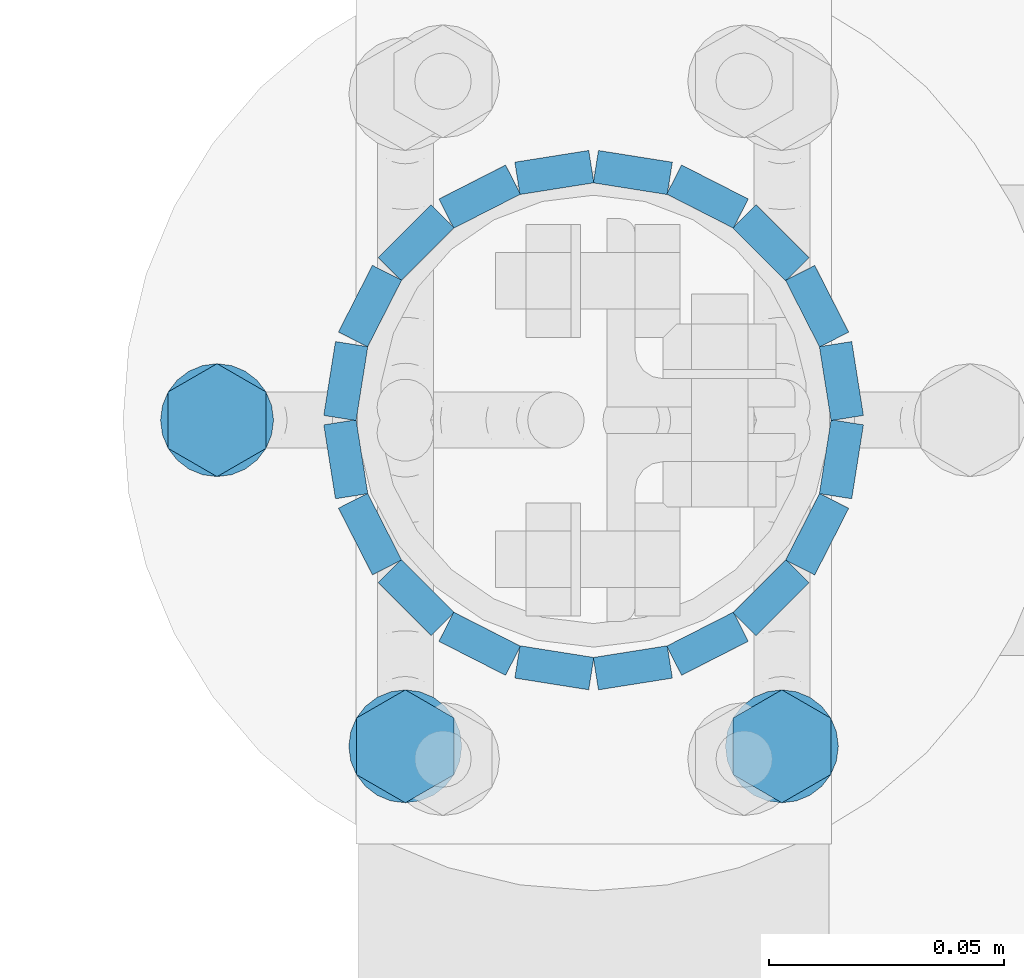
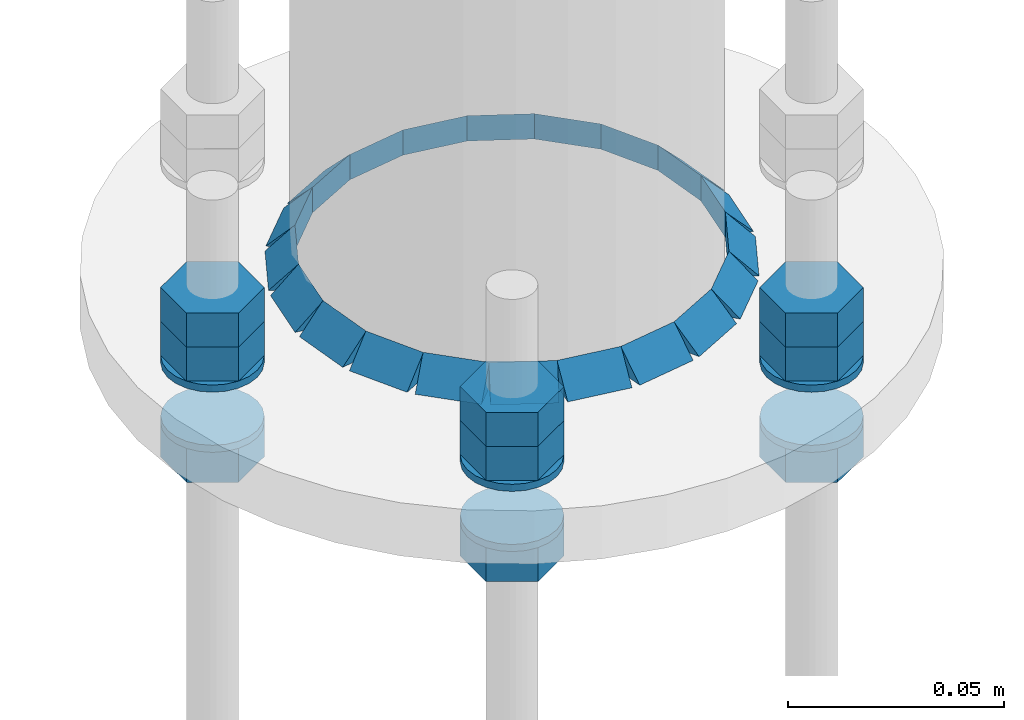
# One storey, part 48 of 84: 40 fasteners, 15 mechanical fasteners.
"""IFC4 building model written with IfcOpenShell, lengths in metres."""

from ifc_helpers import new_model, si_unit, frame, origin_with_axes, place, context, project, spatial, polyline, outline, extrude, type_object, element, save


model = new_model("IFC4")

# Units and contexts
model_context = context("Model", 3, precision=1e-05, world=origin_with_axes())
ifc_project = project(units=[si_unit("LENGTHUNIT", "METRE"), si_unit("AREAUNIT", "SQUARE_METRE"), si_unit("VOLUMEUNIT", "CUBIC_METRE"), si_unit("MASSUNIT", "GRAM", prefix="KILO"), si_unit("TIMEUNIT", "SECOND"), si_unit("PLANEANGLEUNIT", "RADIAN"), si_unit("SOLIDANGLEUNIT", "STERADIAN"), si_unit("THERMODYNAMICTEMPERATUREUNIT", "DEGREE_CELSIUS")], contexts=[model_context])

# Site, building, storey
placement_1 = place(None, origin_with_axes())
site = spatial("IfcSite", under=ifc_project, at=placement_1, Name="Italia", CompositionType="ELEMENT")
building = spatial("IfcBuilding", under=site, at=placement_1, Name="Tettoia", CompositionType="ELEMENT")
storey_placement = place(None, frame((0.0, 0.0, 4.199999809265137), z_axis=(0.0, 0.0, 1.0), x_axis=(1.0, 0.0, 0.0)))
storey = spatial("IfcBuildingStorey", under=building, at=storey_placement, Name="Storey 1", CompositionType="ELEMENT", Elevation=4.199999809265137)

# Fasteners
fastener_type_1 = type_object("IfcFastenerType", Name="Collegamento -011_0111", PredefinedType="WELD")
placement_2 = place(placement_1, origin_with_axes())
fastener_1_placement = place(placement_2, origin_with_axes())
element("IfcFastener", 1, at=fastener_1_placement, inside=storey, type_object=fastener_type_1, Name="Collegamento -011_0111", context=model_context, shape_type="SweptSolid", body=[
    extrude(outline(polyline([(0.0, 0.0), (0.00695801, 0.00717354), (0.00695801, 0.0), (0.0, 0.0)])), frame((0.116736, 14.0048, 4.01495), z_axis=(-0.98768013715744, 0.156486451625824, 0.0), x_axis=(-0.156486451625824, -0.98768013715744, 0.0)), (0.0, 0.0, 1.0), 0.0159),
])
fastener_type_2 = type_object("IfcFastenerType", Name="Collegamento -011_0111", PredefinedType="WELD")
fastener_2_placement = place(placement_2, origin_with_axes())
element("IfcFastener", 2, at=fastener_2_placement, inside=storey, type_object=fastener_type_2, Name="Collegamento -011_0111", context=model_context, shape_type="SweptSolid", body=[
    extrude(outline(polyline([(0.0, 0.0), (0.00695896, 0.00717354), (0.00695896, 0.0), (0.0, 0.0)])), frame((0.132864, 13.997, 4.01495), z_axis=(-0.8910071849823, 0.453989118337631, 0.0), x_axis=(-0.453989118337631, -0.8910071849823, 0.0)), (0.0, 0.0, 1.0), 0.0158999),
])
fastener_type_3 = type_object("IfcFastenerType", Name="Collegamento -011_0111", PredefinedType="WELD")
fastener_3_placement = place(placement_2, origin_with_axes())
element("IfcFastener", 3, at=fastener_3_placement, inside=storey, type_object=fastener_type_3, Name="Collegamento -011_0111", context=model_context, shape_type="SweptSolid", body=[
    extrude(outline(polyline([(0.0, 0.0), (0.00695801, 0.00717354), (0.00695801, 0.0), (0.0, 0.0)])), frame((0.145776, 13.9845, 4.01495), z_axis=(-0.70710813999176, 0.707105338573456, 0.0), x_axis=(-0.707105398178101, -0.707108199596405, 0.0)), (0.0, 0.0, 1.0), 0.0158998),
])
fastener_type_4 = type_object("IfcFastenerType", Name="Collegamento -011_0111", PredefinedType="WELD")
fastener_4_placement = place(placement_2, origin_with_axes())
element("IfcFastener", 4, at=fastener_4_placement, inside=storey, type_object=fastener_type_4, Name="Collegamento -011_0111", context=model_context, shape_type="SweptSolid", body=[
    extrude(outline(polyline([(0.0, 0.0), (0.00695848, 0.00717354), (0.00695848, 0.0), (0.0, 0.0)])), frame((0.154206, 13.9687, 4.01495), z_axis=(-0.453992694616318, 0.891005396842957, 0.0), x_axis=(-0.891005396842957, -0.453992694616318, 0.0)), (0.0, 0.0, 1.0), 0.0158998),
])
fastener_type_5 = type_object("IfcFastenerType", Name="Collegamento -011_0111", PredefinedType="WELD")
fastener_5_placement = place(placement_2, origin_with_axes())
element("IfcFastener", 5, at=fastener_5_placement, inside=storey, type_object=fastener_type_5, Name="Collegamento -011_0111", context=model_context, shape_type="SweptSolid", body=[
    extrude(outline(polyline([(0.0, 0.0), (0.00695801, 0.00717354), (0.00695801, 0.0), (0.0, 0.0)])), frame((0.157331, 13.951, 4.01495), z_axis=(-0.156434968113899, 0.987688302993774, 0.0), x_axis=(-0.98768824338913, -0.156434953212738, 0.0)), (0.0, 0.0, 1.0), 0.0158999),
])
fastener_type_6 = type_object("IfcFastenerType", Name="Collegamento -011_0111", PredefinedType="WELD")
fastener_6_placement = place(placement_2, origin_with_axes())
element("IfcFastener", 6, at=fastener_6_placement, inside=storey, type_object=fastener_type_6, Name="Collegamento -011_0111", context=model_context, shape_type="SweptSolid", body=[
    extrude(outline(polyline([(0.0, 0.0), (0.00695801, 0.00717354), (0.00695801, 0.0), (0.0, 0.0)])), frame((0.154844, 13.9333, 4.01495), z_axis=(0.156434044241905, 0.987688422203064, 0.0), x_axis=(-0.987688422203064, 0.156434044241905, 0.0)), (0.0, 0.0, 1.0), 0.0158999),
])
fastener_type_7 = type_object("IfcFastenerType", Name="Collegamento -011_0111", PredefinedType="WELD")
fastener_7_placement = place(placement_2, origin_with_axes())
element("IfcFastener", 7, at=fastener_7_placement, inside=storey, type_object=fastener_type_7, Name="Collegamento -011_0111", context=model_context, shape_type="SweptSolid", body=[
    extrude(outline(polyline([(0.0, 0.0), (0.00695801, 0.00717354), (0.00695801, 0.0), (0.0, 0.0)])), frame((0.146988, 13.9171, 4.01495), z_axis=(0.45399197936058, 0.89100581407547, 0.0), x_axis=(-0.891005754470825, 0.453991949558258, 0.0)), (0.0, 0.0, 1.0), 0.0158998),
])
fastener_type_8 = type_object("IfcFastenerType", Name="Collegamento -011_0111", PredefinedType="WELD")
fastener_8_placement = place(placement_2, origin_with_axes())
element("IfcFastener", 8, at=fastener_8_placement, inside=storey, type_object=fastener_type_8, Name="Collegamento -011_0111", context=model_context, shape_type="SweptSolid", body=[
    extrude(outline(polyline([(0.0, 0.0), (0.00695801, 0.00717354), (0.00695801, 0.0), (0.0, 0.0)])), frame((0.134533, 13.9042, 4.01495), z_axis=(0.707108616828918, 0.707104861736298, 0.0), x_axis=(-0.707104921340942, 0.707108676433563, 0.0)), (0.0, 0.0, 1.0), 0.0158999),
])
fastener_type_9 = type_object("IfcFastenerType", Name="Collegamento -011_0111", PredefinedType="WELD")
fastener_9_placement = place(placement_2, origin_with_axes())
element("IfcFastener", 9, at=fastener_9_placement, inside=storey, type_object=fastener_type_9, Name="Collegamento -011_0111", context=model_context, shape_type="SweptSolid", body=[
    extrude(outline(polyline([(0.0, 0.0), (0.00695896, 0.00717354), (0.00695896, 0.0), (0.0, 0.0)])), frame((0.118697, 13.8958, 4.01495), z_axis=(0.891007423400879, 0.453988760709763, 0.0), x_axis=(-0.453988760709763, 0.891007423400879, 0.0)), (0.0, 0.0, 1.0), 0.0158999),
])
fastener_type_10 = type_object("IfcFastenerType", Name="Collegamento -011_0111", PredefinedType="WELD")
fastener_10_placement = place(placement_2, origin_with_axes())
element("IfcFastener", 10, at=fastener_10_placement, inside=storey, type_object=fastener_type_10, Name="Collegamento -011_0111", context=model_context, shape_type="SweptSolid", body=[
    extrude(outline(polyline([(0.0, 0.0), (0.00695896, 0.00717354), (0.00695896, 0.0), (0.0, 0.0)])), frame((0.101031, 13.8927, 4.01495), z_axis=(0.987680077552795, 0.156486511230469, 0.0), x_axis=(-0.156486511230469, 0.987680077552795, 0.0)), (0.0, 0.0, 1.0), 0.0159),
])
fastener_type_11 = type_object("IfcFastenerType", Name="Collegamento -011_0111", PredefinedType="WELD")
fastener_11_placement = place(placement_2, origin_with_axes())
element("IfcFastener", 11, at=fastener_11_placement, inside=storey, type_object=fastener_type_11, Name="Collegamento -011_0111", context=model_context, shape_type="SweptSolid", body=[
    extrude(outline(polyline([(0.0, 0.0), (0.00695705, 0.00717354), (0.00695705, 0.0), (0.0, 0.0)])), frame((0.0832645, 13.8952, 4.01495), z_axis=(0.987680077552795, -0.156486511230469, 0.0), x_axis=(0.156486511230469, 0.987680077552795, 0.0)), (0.0, 0.0, 1.0), 0.0159),
])
fastener_type_12 = type_object("IfcFastenerType", Name="Collegamento -011_0111", PredefinedType="WELD")
fastener_12_placement = place(placement_2, origin_with_axes())
element("IfcFastener", 12, at=fastener_12_placement, inside=storey, type_object=fastener_type_12, Name="Collegamento -011_0111", context=model_context, shape_type="SweptSolid", body=[
    extrude(outline(polyline([(0.0, 0.0), (0.00695801, 0.00717354), (0.00695801, 0.0), (0.0, 0.0)])), frame((0.0671362, 13.903, 4.01495), z_axis=(0.891007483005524, -0.453988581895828, 0.0), x_axis=(0.453988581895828, 0.891007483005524, 0.0)), (0.0, 0.0, 1.0), 0.0158999),
])
fastener_type_13 = type_object("IfcFastenerType", Name="Collegamento -011_0111", PredefinedType="WELD")
fastener_13_placement = place(placement_2, origin_with_axes())
element("IfcFastener", 13, at=fastener_13_placement, inside=storey, type_object=fastener_type_13, Name="Collegamento -011_0111", context=model_context, shape_type="SweptSolid", body=[
    extrude(outline(polyline([(0.0, 0.0), (0.00695801, 0.00717354), (0.00695801, 0.0), (0.0, 0.0)])), frame((0.0542245, 13.9155, 4.01495), z_axis=(0.707108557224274, -0.707105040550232, 0.0), x_axis=(0.707105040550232, 0.707108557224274, 0.0)), (0.0, 0.0, 1.0), 0.0158999),
])
fastener_type_14 = type_object("IfcFastenerType", Name="Collegamento -011_0111", PredefinedType="WELD")
fastener_14_placement = place(placement_2, origin_with_axes())
element("IfcFastener", 14, at=fastener_14_placement, inside=storey, type_object=fastener_type_14, Name="Collegamento -011_0111", context=model_context, shape_type="SweptSolid", body=[
    extrude(outline(polyline([(0.0, 0.0), (0.00695848, 0.00717354), (0.00695848, 0.0), (0.0, 0.0)])), frame((0.0457937, 13.9313, 4.01495), z_axis=(0.45399197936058, -0.89100581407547, 0.0), x_axis=(0.891005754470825, 0.453991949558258, 0.0)), (0.0, 0.0, 1.0), 0.0158998),
])
fastener_type_15 = type_object("IfcFastenerType", Name="Collegamento -011_0111", PredefinedType="WELD")
fastener_15_placement = place(placement_2, origin_with_axes())
element("IfcFastener", 15, at=fastener_15_placement, inside=storey, type_object=fastener_type_15, Name="Collegamento -011_0111", context=model_context, shape_type="SweptSolid", body=[
    extrude(outline(polyline([(0.0, 0.0), (0.00695801, 0.00717354), (0.00695801, 0.0), (0.0, 0.0)])), frame((0.0426691, 13.949, 4.01495), z_axis=(0.156434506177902, -0.987688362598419, 0.0), x_axis=(0.987688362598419, 0.156434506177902, 0.0)), (0.0, 0.0, 1.0), 0.0158999),
])
fastener_type_16 = type_object("IfcFastenerType", Name="Collegamento -011_0111", PredefinedType="WELD")
fastener_16_placement = place(placement_2, origin_with_axes())
element("IfcFastener", 16, at=fastener_16_placement, inside=storey, type_object=fastener_type_16, Name="Collegamento -011_0111", context=model_context, shape_type="SweptSolid", body=[
    extrude(outline(polyline([(0.0, 0.0), (0.00695801, 0.00717354), (0.00695801, 0.0), (0.0, 0.0)])), frame((0.0451564, 13.9667, 4.01495), z_axis=(-0.156434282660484, -0.987688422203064, 0.0), x_axis=(0.987688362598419, -0.156434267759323, 0.0)), (0.0, 0.0, 1.0), 0.0158999),
])
fastener_type_17 = type_object("IfcFastenerType", Name="Collegamento -011_0111", PredefinedType="WELD")
fastener_17_placement = place(placement_2, origin_with_axes())
element("IfcFastener", 17, at=fastener_17_placement, inside=storey, type_object=fastener_type_17, Name="Collegamento -011_0111", context=model_context, shape_type="SweptSolid", body=[
    extrude(outline(polyline([(0.0, 0.0), (0.00695801, 0.00717354), (0.00695801, 0.0), (0.0, 0.0)])), frame((0.0530121, 13.9829, 4.01495), z_axis=(-0.453992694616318, -0.891005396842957, 0.0), x_axis=(0.891005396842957, -0.453992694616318, 0.0)), (0.0, 0.0, 1.0), 0.0158998),
])
fastener_type_18 = type_object("IfcFastenerType", Name="Collegamento -011_0111", PredefinedType="WELD")
fastener_18_placement = place(placement_2, origin_with_axes())
element("IfcFastener", 18, at=fastener_18_placement, inside=storey, type_object=fastener_type_18, Name="Collegamento -011_0111", context=model_context, shape_type="SweptSolid", body=[
    extrude(outline(polyline([(0.0, 0.0), (0.00695801, 0.00717354), (0.00695801, 0.0), (0.0, 0.0)])), frame((0.0654674, 13.9958, 4.01495), z_axis=(-0.707108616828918, -0.707104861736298, 0.0), x_axis=(0.707104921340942, -0.707108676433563, 0.0)), (0.0, 0.0, 1.0), 0.0158999),
])
fastener_type_19 = type_object("IfcFastenerType", Name="Collegamento -011_0111", PredefinedType="WELD")
fastener_19_placement = place(placement_2, origin_with_axes())
element("IfcFastener", 19, at=fastener_19_placement, inside=storey, type_object=fastener_type_19, Name="Collegamento -011_0111", context=model_context, shape_type="SweptSolid", body=[
    extrude(outline(polyline([(0.0, 0.0), (0.00695705, 0.00717354), (0.00695705, 0.0), (0.0, 0.0)])), frame((0.0813031, 14.0042, 4.01495), z_axis=(-0.891007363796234, -0.453988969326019, 0.0), x_axis=(0.453988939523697, -0.891007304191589, 0.0)), (0.0, 0.0, 1.0), 0.0158999),
])
fastener_type_20 = type_object("IfcFastenerType", Name="Collegamento -011_0111", PredefinedType="WELD")
fastener_20_placement = place(placement_2, origin_with_axes())
element("IfcFastener", 20, at=fastener_20_placement, inside=storey, type_object=fastener_type_20, Name="Collegamento -011_0111", context=model_context, shape_type="SweptSolid", body=[
    extrude(outline(polyline([(0.0, 0.0), (0.00695801, 0.00717354), (0.00695801, 0.0), (0.0, 0.0)])), frame((0.0989686, 14.0073, 4.01495), z_axis=(-0.98768013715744, -0.156486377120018, 0.0), x_axis=(0.156486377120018, -0.98768013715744, 0.0)), (0.0, 0.0, 1.0), 0.0159),
])
fastener_type_21 = type_object("IfcFastenerType", Name="Collegamento -011_0111", PredefinedType="WELD")
fastener_21_placement = place(placement_2, origin_with_axes())
element("IfcFastener", 21, at=fastener_21_placement, inside=storey, type_object=fastener_type_21, Name="Collegamento -011_0111", context=model_context, shape_type="SweptSolid", body=[
    extrude(outline(polyline([(0.0, 0.0), (0.00695801, 0.00717354), (0.00695801, 0.0), (0.0, 0.0)])), frame((0.116736, 14.0048, 4.01495), z_axis=(-0.98768013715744, 0.156486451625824, 0.0), x_axis=(-0.156486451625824, -0.98768013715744, 0.0)), (0.0, 0.0, 1.0), 0.0159),
])
fastener_type_22 = type_object("IfcFastenerType", Name="Collegamento -011_0111", PredefinedType="WELD")
fastener_22_placement = place(placement_2, origin_with_axes())
element("IfcFastener", 22, at=fastener_22_placement, inside=storey, type_object=fastener_type_22, Name="Collegamento -011_0111", context=model_context, shape_type="SweptSolid", body=[
    extrude(outline(polyline([(0.0, 0.0), (0.00695896, 0.00717354), (0.00695896, 0.0), (0.0, 0.0)])), frame((0.132864, 13.997, 4.01495), z_axis=(-0.8910071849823, 0.453989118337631, 0.0), x_axis=(-0.453989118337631, -0.8910071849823, 0.0)), (0.0, 0.0, 1.0), 0.0158999),
])
fastener_type_23 = type_object("IfcFastenerType", Name="Collegamento -011_0111", PredefinedType="WELD")
fastener_23_placement = place(placement_2, origin_with_axes())
element("IfcFastener", 23, at=fastener_23_placement, inside=storey, type_object=fastener_type_23, Name="Collegamento -011_0111", context=model_context, shape_type="SweptSolid", body=[
    extrude(outline(polyline([(0.0, 0.0), (0.00695801, 0.00717354), (0.00695801, 0.0), (0.0, 0.0)])), frame((0.145776, 13.9845, 4.01495), z_axis=(-0.70710813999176, 0.707105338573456, 0.0), x_axis=(-0.707105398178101, -0.707108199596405, 0.0)), (0.0, 0.0, 1.0), 0.0158998),
])
fastener_type_24 = type_object("IfcFastenerType", Name="Collegamento -011_0111", PredefinedType="WELD")
fastener_24_placement = place(placement_2, origin_with_axes())
element("IfcFastener", 24, at=fastener_24_placement, inside=storey, type_object=fastener_type_24, Name="Collegamento -011_0111", context=model_context, shape_type="SweptSolid", body=[
    extrude(outline(polyline([(0.0, 0.0), (0.00695848, 0.00717354), (0.00695848, 0.0), (0.0, 0.0)])), frame((0.154206, 13.9687, 4.01495), z_axis=(-0.453992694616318, 0.891005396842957, 0.0), x_axis=(-0.891005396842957, -0.453992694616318, 0.0)), (0.0, 0.0, 1.0), 0.0158998),
])
fastener_type_25 = type_object("IfcFastenerType", Name="Collegamento -011_0111", PredefinedType="WELD")
fastener_25_placement = place(placement_2, origin_with_axes())
element("IfcFastener", 25, at=fastener_25_placement, inside=storey, type_object=fastener_type_25, Name="Collegamento -011_0111", context=model_context, shape_type="SweptSolid", body=[
    extrude(outline(polyline([(0.0, 0.0), (0.00695801, 0.00717354), (0.00695801, 0.0), (0.0, 0.0)])), frame((0.157331, 13.951, 4.01495), z_axis=(-0.156434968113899, 0.987688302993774, 0.0), x_axis=(-0.98768824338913, -0.156434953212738, 0.0)), (0.0, 0.0, 1.0), 0.0158999),
])
fastener_type_26 = type_object("IfcFastenerType", Name="Collegamento -011_0111", PredefinedType="WELD")
fastener_26_placement = place(placement_2, origin_with_axes())
element("IfcFastener", 26, at=fastener_26_placement, inside=storey, type_object=fastener_type_26, Name="Collegamento -011_0111", context=model_context, shape_type="SweptSolid", body=[
    extrude(outline(polyline([(0.0, 0.0), (0.00695801, 0.00717354), (0.00695801, 0.0), (0.0, 0.0)])), frame((0.154844, 13.9333, 4.01495), z_axis=(0.156434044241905, 0.987688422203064, 0.0), x_axis=(-0.987688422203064, 0.156434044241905, 0.0)), (0.0, 0.0, 1.0), 0.0158999),
])
fastener_type_27 = type_object("IfcFastenerType", Name="Collegamento -011_0111", PredefinedType="WELD")
fastener_27_placement = place(placement_2, origin_with_axes())
element("IfcFastener", 27, at=fastener_27_placement, inside=storey, type_object=fastener_type_27, Name="Collegamento -011_0111", context=model_context, shape_type="SweptSolid", body=[
    extrude(outline(polyline([(0.0, 0.0), (0.00695801, 0.00717354), (0.00695801, 0.0), (0.0, 0.0)])), frame((0.146988, 13.9171, 4.01495), z_axis=(0.45399197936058, 0.89100581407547, 0.0), x_axis=(-0.891005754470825, 0.453991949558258, 0.0)), (0.0, 0.0, 1.0), 0.0158998),
])
fastener_type_28 = type_object("IfcFastenerType", Name="Collegamento -011_0111", PredefinedType="WELD")
fastener_28_placement = place(placement_2, origin_with_axes())
element("IfcFastener", 28, at=fastener_28_placement, inside=storey, type_object=fastener_type_28, Name="Collegamento -011_0111", context=model_context, shape_type="SweptSolid", body=[
    extrude(outline(polyline([(0.0, 0.0), (0.00695801, 0.00717354), (0.00695801, 0.0), (0.0, 0.0)])), frame((0.134533, 13.9042, 4.01495), z_axis=(0.707108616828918, 0.707104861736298, 0.0), x_axis=(-0.707104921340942, 0.707108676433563, 0.0)), (0.0, 0.0, 1.0), 0.0158999),
])
fastener_type_29 = type_object("IfcFastenerType", Name="Collegamento -011_0111", PredefinedType="WELD")
fastener_29_placement = place(placement_2, origin_with_axes())
element("IfcFastener", 29, at=fastener_29_placement, inside=storey, type_object=fastener_type_29, Name="Collegamento -011_0111", context=model_context, shape_type="SweptSolid", body=[
    extrude(outline(polyline([(0.0, 0.0), (0.00695896, 0.00717354), (0.00695896, 0.0), (0.0, 0.0)])), frame((0.118697, 13.8958, 4.01495), z_axis=(0.891007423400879, 0.453988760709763, 0.0), x_axis=(-0.453988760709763, 0.891007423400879, 0.0)), (0.0, 0.0, 1.0), 0.0158999),
])
fastener_type_30 = type_object("IfcFastenerType", Name="Collegamento -011_0111", PredefinedType="WELD")
fastener_30_placement = place(placement_2, origin_with_axes())
element("IfcFastener", 30, at=fastener_30_placement, inside=storey, type_object=fastener_type_30, Name="Collegamento -011_0111", context=model_context, shape_type="SweptSolid", body=[
    extrude(outline(polyline([(0.0, 0.0), (0.00695896, 0.00717354), (0.00695896, 0.0), (0.0, 0.0)])), frame((0.101031, 13.8927, 4.01495), z_axis=(0.987680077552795, 0.156486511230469, 0.0), x_axis=(-0.156486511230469, 0.987680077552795, 0.0)), (0.0, 0.0, 1.0), 0.0159),
])
fastener_type_31 = type_object("IfcFastenerType", Name="Collegamento -011_0111", PredefinedType="WELD")
fastener_31_placement = place(placement_2, origin_with_axes())
element("IfcFastener", 31, at=fastener_31_placement, inside=storey, type_object=fastener_type_31, Name="Collegamento -011_0111", context=model_context, shape_type="SweptSolid", body=[
    extrude(outline(polyline([(0.0, 0.0), (0.00695705, 0.00717354), (0.00695705, 0.0), (0.0, 0.0)])), frame((0.0832645, 13.8952, 4.01495), z_axis=(0.987680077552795, -0.156486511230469, 0.0), x_axis=(0.156486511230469, 0.987680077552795, 0.0)), (0.0, 0.0, 1.0), 0.0159),
])
fastener_type_32 = type_object("IfcFastenerType", Name="Collegamento -011_0111", PredefinedType="WELD")
fastener_32_placement = place(placement_2, origin_with_axes())
element("IfcFastener", 32, at=fastener_32_placement, inside=storey, type_object=fastener_type_32, Name="Collegamento -011_0111", context=model_context, shape_type="SweptSolid", body=[
    extrude(outline(polyline([(0.0, 0.0), (0.00695801, 0.00717354), (0.00695801, 0.0), (0.0, 0.0)])), frame((0.0671362, 13.903, 4.01495), z_axis=(0.891007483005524, -0.453988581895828, 0.0), x_axis=(0.453988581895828, 0.891007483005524, 0.0)), (0.0, 0.0, 1.0), 0.0158999),
])
fastener_type_33 = type_object("IfcFastenerType", Name="Collegamento -011_0111", PredefinedType="WELD")
fastener_33_placement = place(placement_2, origin_with_axes())
element("IfcFastener", 33, at=fastener_33_placement, inside=storey, type_object=fastener_type_33, Name="Collegamento -011_0111", context=model_context, shape_type="SweptSolid", body=[
    extrude(outline(polyline([(0.0, 0.0), (0.00695801, 0.00717354), (0.00695801, 0.0), (0.0, 0.0)])), frame((0.0542245, 13.9155, 4.01495), z_axis=(0.707108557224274, -0.707105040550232, 0.0), x_axis=(0.707105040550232, 0.707108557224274, 0.0)), (0.0, 0.0, 1.0), 0.0158999),
])
fastener_type_34 = type_object("IfcFastenerType", Name="Collegamento -011_0111", PredefinedType="WELD")
fastener_34_placement = place(placement_2, origin_with_axes())
element("IfcFastener", 34, at=fastener_34_placement, inside=storey, type_object=fastener_type_34, Name="Collegamento -011_0111", context=model_context, shape_type="SweptSolid", body=[
    extrude(outline(polyline([(0.0, 0.0), (0.00695848, 0.00717354), (0.00695848, 0.0), (0.0, 0.0)])), frame((0.0457937, 13.9313, 4.01495), z_axis=(0.45399197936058, -0.89100581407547, 0.0), x_axis=(0.891005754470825, 0.453991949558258, 0.0)), (0.0, 0.0, 1.0), 0.0158998),
])
fastener_type_35 = type_object("IfcFastenerType", Name="Collegamento -011_0111", PredefinedType="WELD")
fastener_35_placement = place(placement_2, origin_with_axes())
element("IfcFastener", 35, at=fastener_35_placement, inside=storey, type_object=fastener_type_35, Name="Collegamento -011_0111", context=model_context, shape_type="SweptSolid", body=[
    extrude(outline(polyline([(0.0, 0.0), (0.00695801, 0.00717354), (0.00695801, 0.0), (0.0, 0.0)])), frame((0.0426691, 13.949, 4.01495), z_axis=(0.156434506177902, -0.987688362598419, 0.0), x_axis=(0.987688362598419, 0.156434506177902, 0.0)), (0.0, 0.0, 1.0), 0.0158999),
])
fastener_type_36 = type_object("IfcFastenerType", Name="Collegamento -011_0111", PredefinedType="WELD")
fastener_36_placement = place(placement_2, origin_with_axes())
element("IfcFastener", 36, at=fastener_36_placement, inside=storey, type_object=fastener_type_36, Name="Collegamento -011_0111", context=model_context, shape_type="SweptSolid", body=[
    extrude(outline(polyline([(0.0, 0.0), (0.00695801, 0.00717354), (0.00695801, 0.0), (0.0, 0.0)])), frame((0.0451564, 13.9667, 4.01495), z_axis=(-0.156434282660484, -0.987688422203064, 0.0), x_axis=(0.987688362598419, -0.156434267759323, 0.0)), (0.0, 0.0, 1.0), 0.0158999),
])
fastener_type_37 = type_object("IfcFastenerType", Name="Collegamento -011_0111", PredefinedType="WELD")
fastener_37_placement = place(placement_2, origin_with_axes())
element("IfcFastener", 37, at=fastener_37_placement, inside=storey, type_object=fastener_type_37, Name="Collegamento -011_0111", context=model_context, shape_type="SweptSolid", body=[
    extrude(outline(polyline([(0.0, 0.0), (0.00695801, 0.00717354), (0.00695801, 0.0), (0.0, 0.0)])), frame((0.0530121, 13.9829, 4.01495), z_axis=(-0.453992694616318, -0.891005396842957, 0.0), x_axis=(0.891005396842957, -0.453992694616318, 0.0)), (0.0, 0.0, 1.0), 0.0158998),
])
fastener_type_38 = type_object("IfcFastenerType", Name="Collegamento -011_0111", PredefinedType="WELD")
fastener_38_placement = place(placement_2, origin_with_axes())
element("IfcFastener", 38, at=fastener_38_placement, inside=storey, type_object=fastener_type_38, Name="Collegamento -011_0111", context=model_context, shape_type="SweptSolid", body=[
    extrude(outline(polyline([(0.0, 0.0), (0.00695801, 0.00717354), (0.00695801, 0.0), (0.0, 0.0)])), frame((0.0654674, 13.9958, 4.01495), z_axis=(-0.707108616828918, -0.707104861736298, 0.0), x_axis=(0.707104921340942, -0.707108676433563, 0.0)), (0.0, 0.0, 1.0), 0.0158999),
])
fastener_type_39 = type_object("IfcFastenerType", Name="Collegamento -011_0111", PredefinedType="WELD")
fastener_39_placement = place(placement_2, origin_with_axes())
element("IfcFastener", 39, at=fastener_39_placement, inside=storey, type_object=fastener_type_39, Name="Collegamento -011_0111", context=model_context, shape_type="SweptSolid", body=[
    extrude(outline(polyline([(0.0, 0.0), (0.00695705, 0.00717354), (0.00695705, 0.0), (0.0, 0.0)])), frame((0.0813031, 14.0042, 4.01495), z_axis=(-0.891007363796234, -0.453988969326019, 0.0), x_axis=(0.453988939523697, -0.891007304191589, 0.0)), (0.0, 0.0, 1.0), 0.0158999),
])
fastener_type_40 = type_object("IfcFastenerType", Name="Collegamento -011_0111", PredefinedType="WELD")
fastener_40_placement = place(placement_2, origin_with_axes())
element("IfcFastener", 40, at=fastener_40_placement, inside=storey, type_object=fastener_type_40, Name="Collegamento -011_0111", context=model_context, shape_type="SweptSolid", body=[
    extrude(outline(polyline([(0.0, 0.0), (0.00695801, 0.00717354), (0.00695801, 0.0), (0.0, 0.0)])), frame((0.0989686, 14.0073, 4.01495), z_axis=(-0.98768013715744, -0.156486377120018, 0.0), x_axis=(0.156486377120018, -0.98768013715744, 0.0)), (0.0, 0.0, 1.0), 0.0159),
])

# Mechanical fasteners
mechanical_fastener_type_1 = type_object("IfcMechanicalFastenerType", Name="Collegamento -011_0111", PredefinedType="BOLT")
mechanical_fastener_1_placement = place(placement_2, origin_with_axes())
element("IfcMechanicalFastener", 41, at=mechanical_fastener_1_placement, inside=storey, type_object=mechanical_fastener_type_1, Name="Collegamento -011_0111", NominalDiameter=0.0119991, context=model_context, shape_type="SweptSolid", body=[
    extrude(outline(polyline([(0.0, 0.0), (-0.0119991, 0.0), (-0.0179996, 0.0103923), (-0.0119991, 0.0207846), (0.0, 0.0207846), (0.00600052, 0.0103923), (0.0, 0.0)])), frame((0.0303923, 13.956, 4.017), z_axis=(0.0, 0.0, 1.0), x_axis=(0.0, 1.0, 0.0)), (0.0, 0.0, 1.0), 0.00959969),
])
mechanical_fastener_type_2 = type_object("IfcMechanicalFastenerType", Name="Collegamento -011_0111", PredefinedType="BOLT")
mechanical_fastener_2_placement = place(placement_2, origin_with_axes())
element("IfcMechanicalFastener", 42, at=mechanical_fastener_2_placement, inside=storey, type_object=mechanical_fastener_type_2, Name="Collegamento -011_0111", NominalDiameter=0.0119991, context=model_context, shape_type="SweptSolid", body=[
    extrude(outline(polyline([(0.0, 0.0), (-0.0119991, 0.0), (-0.0179996, 0.0103923), (-0.0119991, 0.0207846), (0.0, 0.0207846), (0.00600052, 0.0103923), (0.0, 0.0)])), frame((0.0303923, 13.956, 4.0266), z_axis=(0.0, 0.0, 1.0), x_axis=(0.0, 1.0, 0.0)), (0.0, 0.0, 1.0), 0.00960016),
])
mechanical_fastener_type_3 = type_object("IfcMechanicalFastenerType", Name="Collegamento -011_0111", PredefinedType="BOLT")
mechanical_fastener_3_placement = place(placement_2, origin_with_axes())
element("IfcMechanicalFastener", 43, at=mechanical_fastener_3_placement, inside=storey, type_object=mechanical_fastener_type_3, Name="Collegamento -011_0111", NominalDiameter=0.0119991, context=model_context, shape_type="SweptSolid", body=[
    extrude(outline(polyline([(0.0, 0.0), (-0.0119991, 0.0), (-0.0179996, 0.0103923), (-0.0119991, 0.0207846), (0.0, 0.0207846), (0.00600052, 0.0103923), (0.0, 0.0)])), frame((0.0303923, 13.956, 3.9884), z_axis=(0.0, 0.0, 1.0), x_axis=(0.0, 1.0, 0.0)), (0.0, 0.0, 1.0), 0.00959992),
])
mechanical_fastener_type_4 = type_object("IfcMechanicalFastenerType", Name="Collegamento -011_0111", PredefinedType="BOLT")
mechanical_fastener_4_placement = place(placement_2, origin_with_axes())
element("IfcMechanicalFastener", 44, at=mechanical_fastener_4_placement, inside=storey, type_object=mechanical_fastener_type_4, Name="Collegamento -011_0111", NominalDiameter=0.024, context=model_context, shape_type="SweptSolid", body=[
    extrude(outline(polyline([(0.0, 0.0), (-0.000409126, -0.00310583), (-0.00160789, -0.006), (-0.00351524, -0.00848528), (-0.00600052, -0.0103923), (-0.00889397, -0.0115911), (-0.0120001, -0.012), (-0.0151062, -0.0115911), (-0.0179996, -0.0103923), (-0.0204849, -0.00848528), (-0.0223923, -0.006), (-0.023591, -0.00310583), (-0.0240002, 0.0), (-0.023591, 0.00310583), (-0.0223923, 0.006), (-0.0204849, 0.00848528), (-0.0179996, 0.0103923), (-0.0151062, 0.0115911), (-0.0120001, 0.012), (-0.00889397, 0.0115911), (-0.00600052, 0.0103923), (-0.00351524, 0.00848528), (-0.00160789, 0.006), (-0.000409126, 0.00310583), (0.0, 0.0)])), frame((0.02, 13.962, 4.015), z_axis=(0.0, 0.0, 1.0), x_axis=(0.0, 1.0, 0.0)), (0.0, 0.0, 1.0), 0.00200033),
])
mechanical_fastener_type_5 = type_object("IfcMechanicalFastenerType", Name="Collegamento -011_0111", PredefinedType="BOLT")
mechanical_fastener_5_placement = place(placement_2, origin_with_axes())
element("IfcMechanicalFastener", 45, at=mechanical_fastener_5_placement, inside=storey, type_object=mechanical_fastener_type_5, Name="Collegamento -011_0111", NominalDiameter=0.024, context=model_context, shape_type="SweptSolid", body=[
    extrude(outline(polyline([(0.0, 0.0), (-0.000409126, -0.00310583), (-0.00160789, -0.006), (-0.00351524, -0.00848528), (-0.00600052, -0.0103923), (-0.00889397, -0.0115911), (-0.0120001, -0.012), (-0.0151062, -0.0115911), (-0.0179996, -0.0103923), (-0.0204849, -0.00848528), (-0.0223923, -0.006), (-0.023591, -0.00310583), (-0.0240002, 0.0), (-0.023591, 0.00310583), (-0.0223923, 0.006), (-0.0204849, 0.00848528), (-0.0179996, 0.0103923), (-0.0151062, 0.0115911), (-0.0120001, 0.012), (-0.00889397, 0.0115911), (-0.00600052, 0.0103923), (-0.00351524, 0.00848528), (-0.00160789, 0.006), (-0.000409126, 0.00310583), (0.0, 0.0)])), frame((0.02, 13.962, 3.998), z_axis=(0.0, 0.0, 1.0), x_axis=(0.0, 1.0, 0.0)), (0.0, 0.0, 1.0), 0.00200009),
])
mechanical_fastener_type_6 = type_object("IfcMechanicalFastenerType", Name="Collegamento -011_0111", PredefinedType="BOLT")
mechanical_fastener_6_placement = place(placement_2, origin_with_axes())
element("IfcMechanicalFastener", 46, at=mechanical_fastener_6_placement, inside=storey, type_object=mechanical_fastener_type_6, Name="Collegamento -011_0111", NominalDiameter=0.0119998, context=model_context, shape_type="SweptSolid", body=[
    extrude(outline(polyline([(0.0, 0.0), (-0.0120001, 0.0), (-0.0179996, 0.0103923), (-0.0120001, 0.0207846), (0.0, 0.0207846), (0.00599957, 0.0103923), (0.0, 0.0)])), frame((0.0703923, 13.8867, 4.017), z_axis=(0.0, 0.0, 1.0), x_axis=(0.0, 1.0, 0.0)), (0.0, 0.0, 1.0), 0.00959969),
])
mechanical_fastener_type_7 = type_object("IfcMechanicalFastenerType", Name="Collegamento -011_0111", PredefinedType="BOLT")
mechanical_fastener_7_placement = place(placement_2, origin_with_axes())
element("IfcMechanicalFastener", 47, at=mechanical_fastener_7_placement, inside=storey, type_object=mechanical_fastener_type_7, Name="Collegamento -011_0111", NominalDiameter=0.0119998, context=model_context, shape_type="SweptSolid", body=[
    extrude(outline(polyline([(0.0, 0.0), (-0.0120001, 0.0), (-0.0179996, 0.0103923), (-0.0120001, 0.0207846), (0.0, 0.0207846), (0.00599957, 0.0103923), (0.0, 0.0)])), frame((0.0703923, 13.8867, 4.0266), z_axis=(0.0, 0.0, 1.0), x_axis=(0.0, 1.0, 0.0)), (0.0, 0.0, 1.0), 0.00960016),
])
mechanical_fastener_type_8 = type_object("IfcMechanicalFastenerType", Name="Collegamento -011_0111", PredefinedType="BOLT")
mechanical_fastener_8_placement = place(placement_2, origin_with_axes())
element("IfcMechanicalFastener", 48, at=mechanical_fastener_8_placement, inside=storey, type_object=mechanical_fastener_type_8, Name="Collegamento -011_0111", NominalDiameter=0.0119998, context=model_context, shape_type="SweptSolid", body=[
    extrude(outline(polyline([(0.0, 0.0), (-0.0120001, 0.0), (-0.0179996, 0.0103923), (-0.0120001, 0.0207846), (0.0, 0.0207846), (0.00599957, 0.0103923), (0.0, 0.0)])), frame((0.0703923, 13.8867, 3.9884), z_axis=(0.0, 0.0, 1.0), x_axis=(0.0, 1.0, 0.0)), (0.0, 0.0, 1.0), 0.00959992),
])
mechanical_fastener_type_9 = type_object("IfcMechanicalFastenerType", Name="Collegamento -011_0111", PredefinedType="BOLT")
mechanical_fastener_9_placement = place(placement_2, origin_with_axes())
element("IfcMechanicalFastener", 49, at=mechanical_fastener_9_placement, inside=storey, type_object=mechanical_fastener_type_9, Name="Collegamento -011_0111", NominalDiameter=0.024, context=model_context, shape_type="SweptSolid", body=[
    extrude(outline(polyline([(0.0, 0.0), (-0.000409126, -0.00310583), (-0.00160789, -0.006), (-0.00351524, -0.00848528), (-0.00600052, -0.0103923), (-0.00889397, -0.0115911), (-0.0120001, -0.012), (-0.0151062, -0.0115911), (-0.0179996, -0.0103923), (-0.0204849, -0.00848528), (-0.0223923, -0.006), (-0.023591, -0.00310583), (-0.0240002, 0.0), (-0.023591, 0.00310583), (-0.0223923, 0.006), (-0.0204849, 0.00848528), (-0.0179996, 0.0103923), (-0.0151062, 0.0115911), (-0.0120001, 0.012), (-0.00889397, 0.0115911), (-0.00600052, 0.0103923), (-0.00351524, 0.00848528), (-0.00160789, 0.006), (-0.000409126, 0.00310583), (0.0, 0.0)])), frame((0.06, 13.8927, 4.015), z_axis=(0.0, 0.0, 1.0), x_axis=(0.0, 1.0, 0.0)), (0.0, 0.0, 1.0), 0.00200033),
])
mechanical_fastener_type_10 = type_object("IfcMechanicalFastenerType", Name="Collegamento -011_0111", PredefinedType="BOLT")
mechanical_fastener_10_placement = place(placement_2, origin_with_axes())
element("IfcMechanicalFastener", 50, at=mechanical_fastener_10_placement, inside=storey, type_object=mechanical_fastener_type_10, Name="Collegamento -011_0111", NominalDiameter=0.024, context=model_context, shape_type="SweptSolid", body=[
    extrude(outline(polyline([(0.0, 0.0), (-0.000409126, -0.00310583), (-0.00160789, -0.006), (-0.00351524, -0.00848528), (-0.00600052, -0.0103923), (-0.00889397, -0.0115911), (-0.0120001, -0.012), (-0.0151062, -0.0115911), (-0.0179996, -0.0103923), (-0.0204849, -0.00848528), (-0.0223923, -0.006), (-0.023591, -0.00310583), (-0.0240002, 0.0), (-0.023591, 0.00310583), (-0.0223923, 0.006), (-0.0204849, 0.00848528), (-0.0179996, 0.0103923), (-0.0151062, 0.0115911), (-0.0120001, 0.012), (-0.00889397, 0.0115911), (-0.00600052, 0.0103923), (-0.00351524, 0.00848528), (-0.00160789, 0.006), (-0.000409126, 0.00310583), (0.0, 0.0)])), frame((0.06, 13.8927, 3.998), z_axis=(0.0, 0.0, 1.0), x_axis=(0.0, 1.0, 0.0)), (0.0, 0.0, 1.0), 0.00200009),
])
mechanical_fastener_type_11 = type_object("IfcMechanicalFastenerType", Name="Collegamento -011_0111", PredefinedType="BOLT")
mechanical_fastener_11_placement = place(placement_2, origin_with_axes())
element("IfcMechanicalFastener", 51, at=mechanical_fastener_11_placement, inside=storey, type_object=mechanical_fastener_type_11, Name="Collegamento -011_0111", NominalDiameter=0.0119998, context=model_context, shape_type="SweptSolid", body=[
    extrude(outline(polyline([(0.0, 0.0), (-0.0120001, 0.0), (-0.0179996, 0.0103923), (-0.0120001, 0.0207846), (0.0, 0.0207846), (0.00599957, 0.0103923), (0.0, 0.0)])), frame((0.150392, 13.8867, 4.017), z_axis=(0.0, 0.0, 1.0), x_axis=(0.0, 1.0, 0.0)), (0.0, 0.0, 1.0), 0.00959969),
])
mechanical_fastener_type_12 = type_object("IfcMechanicalFastenerType", Name="Collegamento -011_0111", PredefinedType="BOLT")
mechanical_fastener_12_placement = place(placement_2, origin_with_axes())
element("IfcMechanicalFastener", 52, at=mechanical_fastener_12_placement, inside=storey, type_object=mechanical_fastener_type_12, Name="Collegamento -011_0111", NominalDiameter=0.0119998, context=model_context, shape_type="SweptSolid", body=[
    extrude(outline(polyline([(0.0, 0.0), (-0.0120001, 0.0), (-0.0179996, 0.0103923), (-0.0120001, 0.0207846), (0.0, 0.0207846), (0.00599957, 0.0103923), (0.0, 0.0)])), frame((0.150392, 13.8867, 4.0266), z_axis=(0.0, 0.0, 1.0), x_axis=(0.0, 1.0, 0.0)), (0.0, 0.0, 1.0), 0.00960016),
])
mechanical_fastener_type_13 = type_object("IfcMechanicalFastenerType", Name="Collegamento -011_0111", PredefinedType="BOLT")
mechanical_fastener_13_placement = place(placement_2, origin_with_axes())
element("IfcMechanicalFastener", 53, at=mechanical_fastener_13_placement, inside=storey, type_object=mechanical_fastener_type_13, Name="Collegamento -011_0111", NominalDiameter=0.0119998, context=model_context, shape_type="SweptSolid", body=[
    extrude(outline(polyline([(0.0, 0.0), (-0.0120001, 0.0), (-0.0179996, 0.0103923), (-0.0120001, 0.0207846), (0.0, 0.0207846), (0.00599957, 0.0103923), (0.0, 0.0)])), frame((0.150392, 13.8867, 3.9884), z_axis=(0.0, 0.0, 1.0), x_axis=(0.0, 1.0, 0.0)), (0.0, 0.0, 1.0), 0.00959992),
])
mechanical_fastener_type_14 = type_object("IfcMechanicalFastenerType", Name="Collegamento -011_0111", PredefinedType="BOLT")
mechanical_fastener_14_placement = place(placement_2, origin_with_axes())
element("IfcMechanicalFastener", 54, at=mechanical_fastener_14_placement, inside=storey, type_object=mechanical_fastener_type_14, Name="Collegamento -011_0111", NominalDiameter=0.024, context=model_context, shape_type="SweptSolid", body=[
    extrude(outline(polyline([(0.0, 0.0), (-0.000409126, -0.00310583), (-0.00160789, -0.006), (-0.00351524, -0.00848529), (-0.00600052, -0.0103923), (-0.00889397, -0.0115911), (-0.0120001, -0.012), (-0.0151062, -0.0115911), (-0.0179996, -0.0103923), (-0.0204849, -0.00848529), (-0.0223923, -0.006), (-0.023591, -0.00310583), (-0.0240002, 0.0), (-0.023591, 0.00310583), (-0.0223923, 0.006), (-0.0204849, 0.00848529), (-0.0179996, 0.0103923), (-0.0151062, 0.0115911), (-0.0120001, 0.012), (-0.00889397, 0.0115911), (-0.00600052, 0.0103923), (-0.00351524, 0.00848527), (-0.00160789, 0.006), (-0.000409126, 0.00310582), (0.0, 0.0)])), frame((0.14, 13.8927, 4.015), z_axis=(0.0, 0.0, 1.0), x_axis=(0.0, 1.0, 0.0)), (0.0, 0.0, 1.0), 0.00200033),
])
mechanical_fastener_type_15 = type_object("IfcMechanicalFastenerType", Name="Collegamento -011_0111", PredefinedType="BOLT")
mechanical_fastener_15_placement = place(placement_2, origin_with_axes())
element("IfcMechanicalFastener", 55, at=mechanical_fastener_15_placement, inside=storey, type_object=mechanical_fastener_type_15, Name="Collegamento -011_0111", NominalDiameter=0.024, context=model_context, shape_type="SweptSolid", body=[
    extrude(outline(polyline([(0.0, 0.0), (-0.000409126, -0.00310583), (-0.00160789, -0.006), (-0.00351524, -0.00848529), (-0.00600052, -0.0103923), (-0.00889397, -0.0115911), (-0.0120001, -0.012), (-0.0151062, -0.0115911), (-0.0179996, -0.0103923), (-0.0204849, -0.00848529), (-0.0223923, -0.006), (-0.023591, -0.00310583), (-0.0240002, 0.0), (-0.023591, 0.00310583), (-0.0223923, 0.006), (-0.0204849, 0.00848529), (-0.0179996, 0.0103923), (-0.0151062, 0.0115911), (-0.0120001, 0.012), (-0.00889397, 0.0115911), (-0.00600052, 0.0103923), (-0.00351524, 0.00848527), (-0.00160789, 0.006), (-0.000409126, 0.00310582), (0.0, 0.0)])), frame((0.14, 13.8927, 3.998), z_axis=(0.0, 0.0, 1.0), x_axis=(0.0, 1.0, 0.0)), (0.0, 0.0, 1.0), 0.00200009),
])

save(model, "model.ifc")
